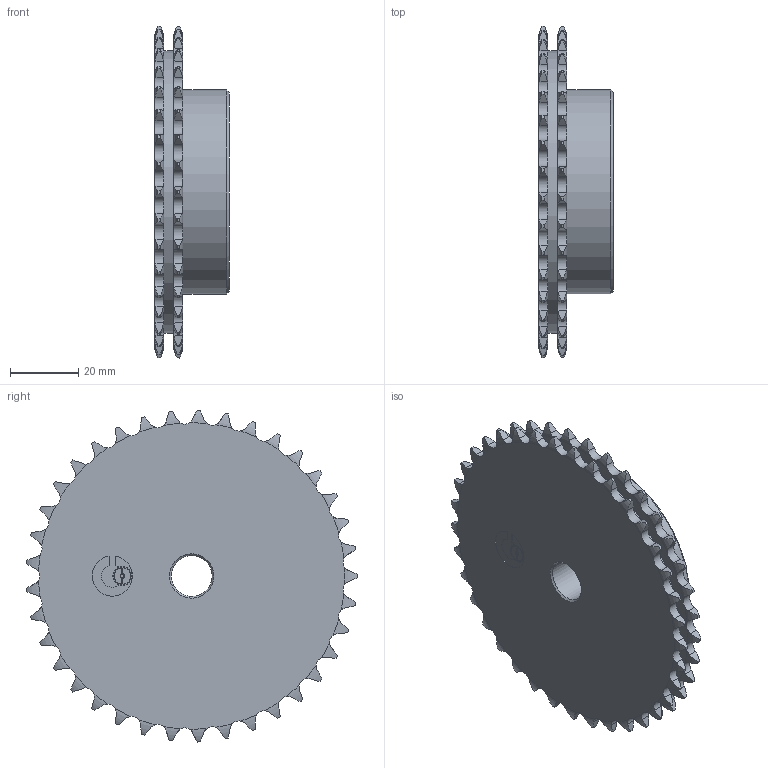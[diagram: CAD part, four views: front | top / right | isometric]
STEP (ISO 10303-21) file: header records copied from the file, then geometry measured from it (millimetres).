
FILE_DESCRIPTION(/* description */ (''),/* implementation_level */ '2;1');
FILE_NAME(/* name */ 'W:\DISEGNI LUCA SALVATAGGIO LOCALE\disegni Fabio Colombo\DISEGNI CATALOGO PIGNONI\PIGNONI ISO606\04- DIN8187 8x3\DIN8187 8x3 -3D - DOPPIO\10208037.stp',/* time_stamp */ '2023-01-11T15:20:12+01:00',/* author */ ('luca.leone'),/* organization */ (''),/* preprocessor_version */ 'ST-DEVELOPER v18.1',/* originating_system */ 'Autodesk Inventor 2022',/* authorisation */ '');
FILE_SCHEMA (('AUTOMOTIVE_DESIGN { 1 0 10303 214 3 1 1 }'));
Length unit declared in the file: millimetre
Products named in the file (1): 10208037
Bounding box: 22 x 97.46 x 97.55 mm (x, y, z)
Volume: 87827.3 mm3; surface area: 21872.5 mm2
Topology: 1 solids, 1 shells, 547 faces, 1612 edges, 1073 vertices
Faces by surface type: cylinder 341, torus 148, plane 55, cone 3
Full cylindrical faces by diameter (mm): 0.977 x1, 12 x1, 60 x1, 83 x1
Entity records: 20050 total; most frequent: CARTESIAN_POINT 6057, ORIENTED_EDGE 3224, DIRECTION 2653, EDGE_CURVE 1612, AXIS2_PLACEMENT_3D 1085, VERTEX_POINT 1073, B_SPLINE_CURVE_WITH_KNOTS 592, EDGE_LOOP 555
